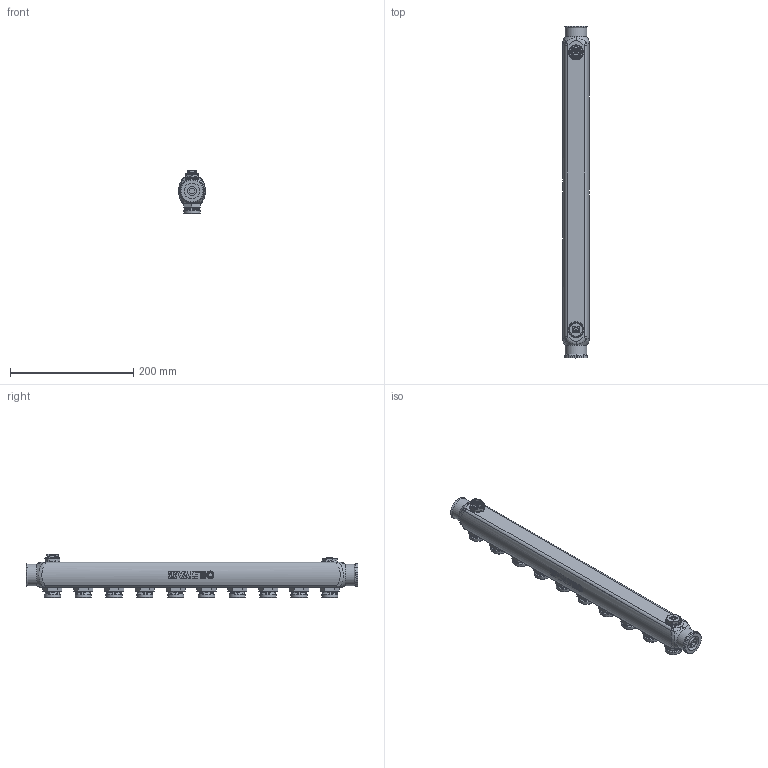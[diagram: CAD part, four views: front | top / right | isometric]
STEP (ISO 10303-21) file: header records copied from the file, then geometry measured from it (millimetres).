
FILE_DESCRIPTION(('STEP AP203'), '1');
FILE_NAME('覆.622621.037.000 捘 - VTc.505.SS.060510', '2024-08-30T10:10:51', ('Boss'), (''), 'C3D Converter', 'C3D Toolkit', '');
FILE_SCHEMA(('CONFIG_CONTROL_DESIGN'));
Length unit declared in the file: millimetre
Products named in the file (1): ВР.622621.037.000 СБ
Bounding box: 43 x 538.5 x 71.1 mm (x, y, z)
Volume: 763120.1 mm3; surface area: 217615.8 mm2
Topology: 1 solids, 36 shells, 981 faces, 2333 edges, 1460 vertices
Faces by surface type: plane 377, cylinder 269, cone 133, torus 101, bspline 101
Full cylindrical faces by diameter (mm): 5 x1, 5.3 x1, 10.2 x1, 12.5 x10, 14 x1, 18.1 x10, 22 x1, 23.5 x10, 24 x1, 25.5 x1, 26 x1, 26.441 x10, 30.292 x1, 35.5 x2, 37 x1
Entity records: 65168 total; most frequent: CARTESIAN_POINT 44680, ORIENTED_EDGE 4336, DIRECTION 3777, EDGE_CURVE 2168, AXIS2_PLACEMENT_3D 1558, VERTEX_POINT 1466, EDGE_LOOP 1173, FACE_BOUND 1002
